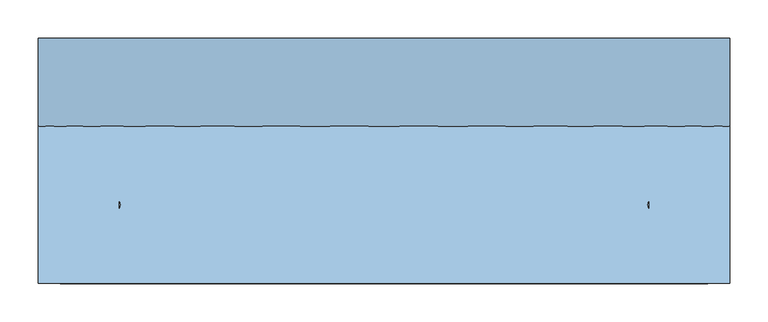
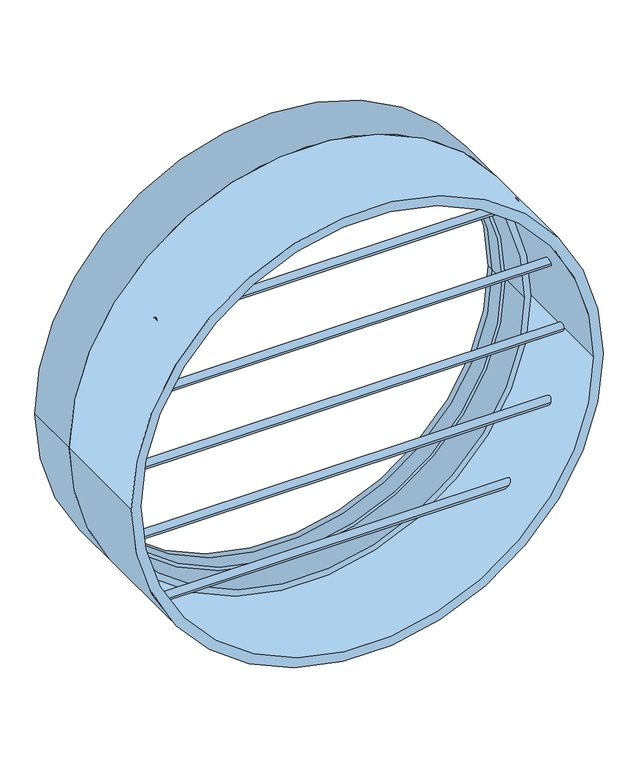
"""IFC4 building model written with IfcOpenShell, lengths in millimetres: window geometry, VENTANA_CAÑO_900 : CAÑO_900mm."""

from ifc_helpers import new_model, si_unit, point, frame, frame_2d, origin, place, context, project, spatial, polyline, circle_curve, trimmed, segment, composite_curve, outline, extrude, source, transform, mapped, element, save
from ifc_brep_helpers import plane_surface, cylinder_surface, revolved_surface, advanced_brep


def window_6bd4aa59(model_context):
    return source(origin(), model_context, "Body", "SolidModel", [
        extrude(outline(composite_curve([segment(trimmed(circle_curve(frame_2d((1350.0, 0.0)), 437.3), [point((1350.0, 437.3))], [point((1350.0, -437.3))], False, "CARTESIAN"), True, "CONTINUOUS"), segment(trimmed(circle_curve(frame_2d((1350.0, 0.0)), 437.3), [point((1350.0, -437.3))], [point((1350.0, 437.3))], False, "CARTESIAN"), True, "CONTINUOUS")], self_intersect=False), holes=[composite_curve([segment(trimmed(circle_curve(frame_2d((1350.0, 0.0)), 411.9), [point((1350.0, -411.9))], [point((1350.0, 411.9))], True, "CARTESIAN"), True, "CONTINUOUS"), segment(trimmed(circle_curve(frame_2d((1350.0, 0.0)), 411.9), [point((1350.0, 411.9))], [point((1350.0, -411.9))], True, "CARTESIAN"), True, "CONTINUOUS")], self_intersect=False)]), frame((0.0, 118.25, 0.0), z_axis=(0.0, 1.0, 0.0), x_axis=(0.0, 0.0, 1.0)), (0.0, 0.0, 1.0), 31.75),
        extrude(outline(composite_curve([segment(trimmed(circle_curve(frame_2d((1350.0, 0.0)), 450.0), [point((1350.0, 450.0))], [point((1350.0, -450.0))], False, "CARTESIAN"), True, "CONTINUOUS"), segment(trimmed(circle_curve(frame_2d((1350.0, 0.0)), 450.0), [point((1350.0, -450.0))], [point((1350.0, 450.0))], False, "CARTESIAN"), True, "CONTINUOUS")], self_intersect=False), holes=[composite_curve([segment(trimmed(circle_curve(frame_2d((1350.0, 0.0)), 430.95), [point((1350.0, -430.95))], [point((1350.0, 430.95))], True, "CARTESIAN"), True, "CONTINUOUS"), segment(trimmed(circle_curve(frame_2d((1350.0, 0.0)), 430.95), [point((1350.0, 430.95))], [point((1350.0, -430.95))], True, "CARTESIAN"), True, "CONTINUOUS")], self_intersect=False)]), frame((0.0, -150.0, 0.0), z_axis=(0.0, 1.0, 0.0), x_axis=(0.0, 0.0, 1.0)), (0.0, 0.0, 1.0), 204.75),
        advanced_brep(
        [(-437.3, 118.25, 1350.0), (437.3, 118.25, 1350.0), (437.3, 169.05, 1350.0), (-437.3, 169.05, 1350.0), (-450.0, 169.05, 1350.0), (450.0, 169.05, 1350.0), (418.25, 118.25, 1350.0), (-418.25, 118.25, 1350.0), (-418.25, 54.75, 1350.0), (418.25, 54.75, 1350.0), (450.0, 54.75, 1350.0), (-450.0, 54.75, 1350.0)],
        [
            (0, 1, circle_curve(frame((0.0, 118.25, 1350.0), z_axis=(0.0, -1.0, 0.0), x_axis=(1.0, 0.0, 0.0)), 437.3)),
            (1, 2),
            (2, 3, circle_curve(frame((0.0, 169.05, 1350.0), z_axis=(0.0, 1.0, 0.0), x_axis=(1.0, 0.0, 0.0)), 437.3)),
            (3, 0),
            (1, 0, circle_curve(frame((0.0, 118.25, 1350.0), z_axis=(0.0, -1.0, 0.0), x_axis=(-1.0, 0.0, 0.0)), 437.3)),
            (3, 2, circle_curve(frame((0.0, 169.05, 1350.0), z_axis=(0.0, 1.0, 0.0), x_axis=(-1.0, 0.0, 0.0)), 437.3)),
            (4, 5, circle_curve(frame((0.0, 169.05, 1350.0), z_axis=(0.0, 1.0, 0.0), x_axis=(-1.0, 0.0, 0.0)), 450.0)),
            (5, 4, circle_curve(frame((0.0, 169.05, 1350.0), z_axis=(0.0, 1.0, 0.0), x_axis=(1.0, 0.0, 0.0)), 450.0)),
            (6, 7, circle_curve(frame((0.0, 118.25, 1350.0), z_axis=(0.0, -1.0, 0.0), x_axis=(-1.0, 0.0, 0.0)), 418.25)),
            (7, 6, circle_curve(frame((0.0, 118.25, 1350.0), z_axis=(0.0, -1.0, 0.0), x_axis=(1.0, 0.0, 0.0)), 418.25)),
            (8, 9, circle_curve(frame((0.0, 54.75, 1350.0), z_axis=(0.0, -1.0, 0.0), x_axis=(1.0, 0.0, 0.0)), 418.25)),
            (9, 6),
            (7, 8),
            (5, 10),
            (10, 11, circle_curve(frame((0.0, 54.75, 1350.0), z_axis=(0.0, 1.0, 0.0), x_axis=(1.0, 0.0, 0.0)), 450.0)),
            (11, 4),
            (9, 8, circle_curve(frame((0.0, 54.75, 1350.0), z_axis=(0.0, -1.0, 0.0), x_axis=(-1.0, 0.0, 0.0)), 418.25)),
            (10, 11, circle_curve(frame((0.0, 54.75, 1350.0), z_axis=(0.0, -1.0, 0.0), x_axis=(-1.0, 0.0, 0.0)), 450.0)),
        ],
        [
            revolved_surface(polyline([(437.3, 169.05, 1350.0), (437.3, 118.25, 1350.0)]), (0.0, 162.7, 1350.0), (0.0, 1.0, 0.0)),
            revolved_surface(polyline([(-437.3, 169.05, 1350.0), (-437.3, 118.25, 1350.0)]), (0.0, 162.7, 1350.0), (0.0, 1.0, 0.0)),
            plane_surface(frame((0.0, 169.05, 1350.0), z_axis=(0.0, 1.0, 0.0), x_axis=(-1.0, 0.0, 0.0))),
            plane_surface(frame((0.0, 118.25, 1350.0), z_axis=(0.0, 1.0, 0.0), x_axis=(-1.0, 0.0, 0.0))),
            revolved_surface(polyline([(418.25, 118.25, 1350.0), (418.25, 54.75, 1350.0)]), (0.0, 162.7, 1350.0), (0.0, 1.0, 0.0)),
            cylinder_surface(frame((0.0, 162.7, 1350.0), z_axis=(0.0, 1.0, 0.0), x_axis=(1.0, 0.0, 0.0)), 450.0),
            revolved_surface(polyline([(-418.25, 118.25, 1350.0), (-418.25, 54.75, 1350.0)]), (0.0, 162.7, 1350.0), (0.0, 1.0, 0.0)),
            plane_surface(frame((0.0, 54.75, 1350.0), z_axis=(0.0, -1.0, 0.0), x_axis=(-1.0, 0.0, 0.0))),
            cylinder_surface(frame((0.0, 162.7, 1350.0), z_axis=(0.0, 1.0, 0.0), x_axis=(-1.0, 0.0, 0.0)), 450.0),
        ],
        [
            (0, [[1, 2, 3, 4]]),
            (1, [[5, -4, 6, -2]]),
            (2, [[7, 8], [-6, -3]]),
            (3, [[-5, -1], [9, 10]]),
            (4, [[11, 12, -10, 13]]),
            (5, [[-8, 14, 15, 16]]),
            (6, [[17, -13, -9, -12]]),
            (7, [[18, -15], [-17, -11]]),
            (8, [[-7, -16, -18, -14]]),
        ],
    ),
        extrude(outline(composite_curve([segment(trimmed(circle_curve(frame_2d((1350.0, 0.0)), 437.3), [point((1350.0, 437.3))], [point((1350.0, -437.3))], False, "CARTESIAN"), True, "CONTINUOUS"), segment(trimmed(circle_curve(frame_2d((1350.0, 0.0)), 437.3), [point((1350.0, -437.3))], [point((1350.0, 437.3))], False, "CARTESIAN"), True, "CONTINUOUS")], self_intersect=False), holes=[composite_curve([segment(trimmed(circle_curve(frame_2d((1350.0, 0.0)), 411.9), [point((1350.0, -411.9))], [point((1350.0, 411.9))], True, "CARTESIAN"), True, "CONTINUOUS"), segment(trimmed(circle_curve(frame_2d((1350.0, 0.0)), 411.9), [point((1350.0, 411.9))], [point((1350.0, -411.9))], True, "CARTESIAN"), True, "CONTINUOUS")], self_intersect=False)]), frame((0.0, 150.0, 0.0), z_axis=(0.0, 1.0, 0.0), x_axis=(0.0, 0.0, 1.0)), (0.0, 0.0, 1.0), 12.7),
        extrude(outline(composite_curve([segment(trimmed(circle_curve(frame_2d((-47.625, 1070.0)), 8.0), [point((-55.625, 1070.0))], [point((-39.625, 1070.0))], False, "CARTESIAN"), True, "CONTINUOUS"), segment(trimmed(circle_curve(frame_2d((-47.625, 1070.0)), 8.0), [point((-39.625, 1070.0))], [point((-55.625, 1070.0))], False, "CARTESIAN"), True, "CONTINUOUS")], self_intersect=False)), frame((-345.0, 0.0, 0.0), z_axis=(1.0, 0.0, 0.0), x_axis=(0.0, 1.0, 0.0)), (0.0, 0.0, 1.0), 690.0),
        extrude(outline(composite_curve([segment(trimmed(circle_curve(frame_2d((-47.625, 1210.0)), 8.0), [point((-55.625, 1210.0))], [point((-39.625, 1210.0))], False, "CARTESIAN"), True, "CONTINUOUS"), segment(trimmed(circle_curve(frame_2d((-47.625, 1210.0)), 8.0), [point((-39.625, 1210.0))], [point((-55.625, 1210.0))], False, "CARTESIAN"), True, "CONTINUOUS")], self_intersect=False)), frame((-415.0, 0.0, 0.0), z_axis=(1.0, 0.0, 0.0), x_axis=(0.0, 1.0, 0.0)), (0.0, 0.0, 1.0), 830.0),
        extrude(outline(composite_curve([segment(trimmed(circle_curve(frame_2d((-47.625, 1630.0)), 8.0), [point((-55.625, 1630.0))], [point((-39.625, 1630.0))], False, "CARTESIAN"), True, "CONTINUOUS"), segment(trimmed(circle_curve(frame_2d((-47.625, 1630.0)), 8.0), [point((-39.625, 1630.0))], [point((-55.625, 1630.0))], False, "CARTESIAN"), True, "CONTINUOUS")], self_intersect=False)), frame((-345.0, 0.0, 0.0), z_axis=(1.0, 0.0, 0.0), x_axis=(0.0, 1.0, 0.0)), (0.0, 0.0, 1.0), 690.0),
        extrude(outline(composite_curve([segment(trimmed(circle_curve(frame_2d((-47.625, 1490.0)), 8.0), [point((-55.625, 1490.0))], [point((-39.625, 1490.0))], False, "CARTESIAN"), True, "CONTINUOUS"), segment(trimmed(circle_curve(frame_2d((-47.625, 1490.0)), 8.0), [point((-39.625, 1490.0))], [point((-55.625, 1490.0))], False, "CARTESIAN"), True, "CONTINUOUS")], self_intersect=False)), frame((-415.0, 0.0, 0.0), z_axis=(1.0, 0.0, 0.0), x_axis=(0.0, 1.0, 0.0)), (0.0, 0.0, 1.0), 830.0),
        extrude(outline(composite_curve([segment(trimmed(circle_curve(frame_2d((-47.625, 1350.0)), 8.0), [point((-55.625, 1350.0))], [point((-39.625, 1350.0))], False, "CARTESIAN"), True, "CONTINUOUS"), segment(trimmed(circle_curve(frame_2d((-47.625, 1350.0)), 8.0), [point((-39.625, 1350.0))], [point((-55.625, 1350.0))], False, "CARTESIAN"), True, "CONTINUOUS")], self_intersect=False)), frame((-440.0, 0.0, 0.0), z_axis=(1.0, 0.0, 0.0), x_axis=(0.0, 1.0, 0.0)), (0.0, 0.0, 1.0), 880.0),
    ])


if __name__ == "__main__":
    model = new_model("IFC4")
    model_context = context("Model", 3, world=origin())
    ifc_project = project(units=[si_unit("LENGTHUNIT", "METRE", prefix="MILLI")], contexts=[model_context])
    site = spatial("IfcSite", under=ifc_project)
    building = spatial("IfcBuilding", under=site)
    placement = place(None, origin())
    window_shape = window_6bd4aa59(model_context)
    element("IfcWindow", 1, ObjectType="VENTANA_CAÑO_900 : CAÑO_900mm", at=placement, inside=building, context=model_context, shape_type="MappedRepresentation", body=[
        mapped(window_shape, transform((0.0, 0.0, 0.0), x_axis=(1.0, 0.0, 0.0), y_axis=(0.0, 1.0, 0.0), z_axis=(0.0, 0.0, 1.0))),
    ])
    save(model, "model.ifc")
